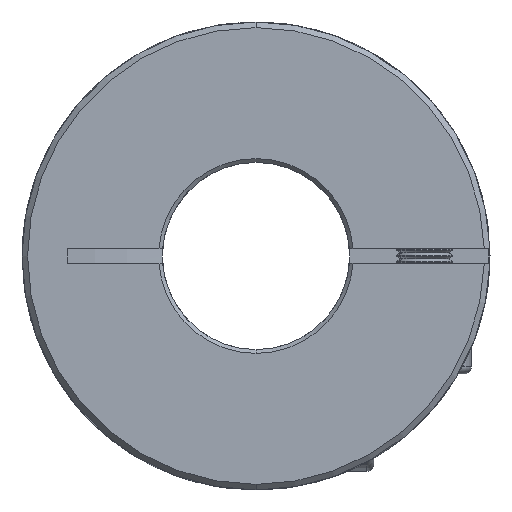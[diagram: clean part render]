
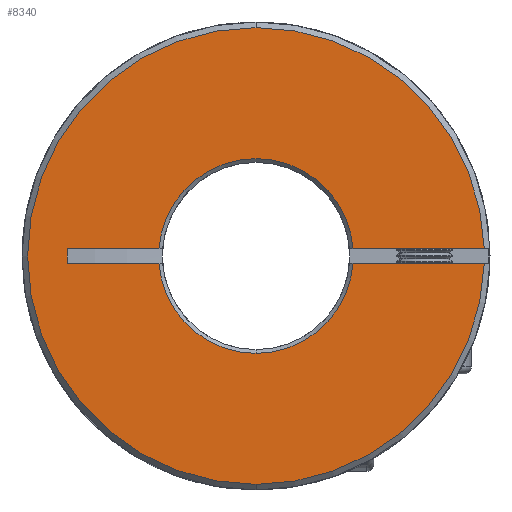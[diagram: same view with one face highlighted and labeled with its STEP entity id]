
A CAD part, front view. The second image highlights one B-rep face of the part: STEP entity #8340.
In plain terms, the highlighted planar face has unit normal (0, -1, 0).
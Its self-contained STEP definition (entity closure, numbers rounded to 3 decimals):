
#71 = AXIS2_PLACEMENT_3D ( 'NONE', #16097, #13433, #2530 ) ;
#72 = DIRECTION ( 'NONE',  ( 0., -1., 0. ) ) ;
#171 = ORIENTED_EDGE ( 'NONE', *, *, #17100, .F. ) ;
#174 = VERTEX_POINT ( 'NONE', #7508 ) ;
#211 = EDGE_CURVE ( 'NONE', #16513, #7217, #10555, .T. ) ;
#518 = CIRCLE ( 'NONE', #4623, 10.4 ) ;
#1236 = VECTOR ( 'NONE', #8196, 1000. ) ;
#1238 = AXIS2_PLACEMENT_3D ( 'NONE', #11356, #16881, #6082 ) ;
#1273 = VERTEX_POINT ( 'NONE', #14547 ) ;
#1560 = DIRECTION ( 'NONE',  ( 0., 1., 0. ) ) ;
#1638 = AXIS2_PLACEMENT_3D ( 'NONE', #12292, #1560, #3040 ) ;
#2005 = ORIENTED_EDGE ( 'NONE', *, *, #211, .T. ) ;
#2184 = CARTESIAN_POINT ( 'NONE',  ( -50., 0., -0.75 ) ) ;
#2198 = ORIENTED_EDGE ( 'NONE', *, *, #3200, .T. ) ;
#2317 = DIRECTION ( 'NONE',  ( 0., -1., 0. ) ) ;
#2530 = DIRECTION ( 'NONE',  ( 0., 0., 1. ) ) ;
#2763 = CARTESIAN_POINT ( 'NONE',  ( -50., 0., 0.75 ) ) ;
#3040 = DIRECTION ( 'NONE',  ( 0., 0., 1. ) ) ;
#3200 = EDGE_CURVE ( 'NONE', #11424, #6997, #4933, .T. ) ;
#3436 = ORIENTED_EDGE ( 'NONE', *, *, #10651, .T. ) ;
#3482 = EDGE_LOOP ( 'NONE', ( #16345, #8250, #3436, #171, #2005, #3846, #9239, #11508, #5549, #16302, #2198 ) ) ;
#3511 = PLANE ( 'NONE',  #1238 ) ;
#3793 = CARTESIAN_POINT ( 'NONE',  ( 0., 0., 0. ) ) ;
#3846 = ORIENTED_EDGE ( 'NONE', *, *, #14262, .T. ) ;
#3871 = DIRECTION ( 'NONE',  ( 0., 0., 1. ) ) ;
#4262 = CARTESIAN_POINT ( 'NONE',  ( 10.373, 0., -0.75 ) ) ;
#4623 = AXIS2_PLACEMENT_3D ( 'NONE', #16015, #16149, #14666 ) ;
#4782 = VECTOR ( 'NONE', #12043, 1000. ) ;
#4889 = DIRECTION ( 'NONE',  ( 0., 1., 0. ) ) ;
#4933 = CIRCLE ( 'NONE', #8723, 24.4 ) ;
#5128 = CARTESIAN_POINT ( 'NONE',  ( 24.388, 0., 0.75 ) ) ;
#5269 = CARTESIAN_POINT ( 'NONE',  ( -20.149, 0., 0.75 ) ) ;
#5379 = CARTESIAN_POINT ( 'NONE',  ( -50., 0., 0.75 ) ) ;
#5549 = ORIENTED_EDGE ( 'NONE', *, *, #6552, .T. ) ;
#5589 = VECTOR ( 'NONE', #7750, 1000. ) ;
#5804 = LINE ( 'NONE', #2184, #5589 ) ;
#5905 = LINE ( 'NONE', #2763, #16264 ) ;
#6082 = DIRECTION ( 'NONE',  ( 0., 0., 1. ) ) ;
#6477 = LINE ( 'NONE', #6734, #4782 ) ;
#6552 = EDGE_CURVE ( 'NONE', #10652, #1273, #13053, .T. ) ;
#6595 = VERTEX_POINT ( 'NONE', #14715 ) ;
#6734 = CARTESIAN_POINT ( 'NONE',  ( -50., 0., -0.75 ) ) ;
#6997 = VERTEX_POINT ( 'NONE', #9098 ) ;
#7042 = CARTESIAN_POINT ( 'NONE',  ( 10.373, 0., 0.75 ) ) ;
#7217 = VERTEX_POINT ( 'NONE', #5269 ) ;
#7508 = CARTESIAN_POINT ( 'NONE',  ( 0., 0., -10.4 ) ) ;
#7750 = DIRECTION ( 'NONE',  ( 1., 0., 0. ) ) ;
#8165 = DIRECTION ( 'NONE',  ( 1., 0., 0. ) ) ;
#8196 = DIRECTION ( 'NONE',  ( 1., 0., 0. ) ) ;
#8250 = ORIENTED_EDGE ( 'NONE', *, *, #11879, .T. ) ;
#8275 = CARTESIAN_POINT ( 'NONE',  ( 0., 0., 0. ) ) ;
#8340 = ADVANCED_FACE ( 'NONE', ( #12584 ), #3511, .F. ) ;
#8500 = EDGE_CURVE ( 'NONE', #1273, #11424, #10066, .T. ) ;
#8625 = EDGE_CURVE ( 'NONE', #15837, #6997, #6477, .T. ) ;
#8723 = AXIS2_PLACEMENT_3D ( 'NONE', #8275, #72, #10943 ) ;
#9098 = CARTESIAN_POINT ( 'NONE',  ( 24.388, 0., -0.75 ) ) ;
#9165 = AXIS2_PLACEMENT_3D ( 'NONE', #12975, #4889, #17102 ) ;
#9239 = ORIENTED_EDGE ( 'NONE', *, *, #17186, .T. ) ;
#9254 = CARTESIAN_POINT ( 'NONE',  ( -20.149, 0., -0.75 ) ) ;
#9782 = CIRCLE ( 'NONE', #9165, 10.4 ) ;
#9858 = CARTESIAN_POINT ( 'NONE',  ( 0., 0., -24.4 ) ) ;
#10066 = CIRCLE ( 'NONE', #10524, 24.4 ) ;
#10524 = AXIS2_PLACEMENT_3D ( 'NONE', #3793, #2317, #15870 ) ;
#10555 = LINE ( 'NONE', #9254, #15398 ) ;
#10613 = VERTEX_POINT ( 'NONE', #14436 ) ;
#10651 = EDGE_CURVE ( 'NONE', #174, #10613, #9782, .T. ) ;
#10652 = VERTEX_POINT ( 'NONE', #5128 ) ;
#10943 = DIRECTION ( 'NONE',  ( 0., 0., 1. ) ) ;
#10973 = LINE ( 'NONE', #5379, #1236 ) ;
#11356 = CARTESIAN_POINT ( 'NONE',  ( -50., 0., 32.858 ) ) ;
#11424 = VERTEX_POINT ( 'NONE', #9858 ) ;
#11508 = ORIENTED_EDGE ( 'NONE', *, *, #12887, .T. ) ;
#11879 = EDGE_CURVE ( 'NONE', #15837, #174, #12505, .T. ) ;
#12043 = DIRECTION ( 'NONE',  ( 1., 0., 0. ) ) ;
#12292 = CARTESIAN_POINT ( 'NONE',  ( 0., 0., 0. ) ) ;
#12505 = CIRCLE ( 'NONE', #1638, 10.4 ) ;
#12584 = FACE_OUTER_BOUND ( 'NONE', #3482, .T. ) ;
#12887 = EDGE_CURVE ( 'NONE', #15828, #10652, #5905, .T. ) ;
#12975 = CARTESIAN_POINT ( 'NONE',  ( 0., 0., 0. ) ) ;
#13053 = CIRCLE ( 'NONE', #71, 24.4 ) ;
#13433 = DIRECTION ( 'NONE',  ( 0., -1., 0. ) ) ;
#14262 = EDGE_CURVE ( 'NONE', #7217, #6595, #10973, .T. ) ;
#14436 = CARTESIAN_POINT ( 'NONE',  ( -10.373, 0., -0.75 ) ) ;
#14547 = CARTESIAN_POINT ( 'NONE',  ( 0., 0., 24.4 ) ) ;
#14666 = DIRECTION ( 'NONE',  ( 0., 0., 1. ) ) ;
#14715 = CARTESIAN_POINT ( 'NONE',  ( -10.373, 0., 0.75 ) ) ;
#15398 = VECTOR ( 'NONE', #3871, 1000. ) ;
#15828 = VERTEX_POINT ( 'NONE', #7042 ) ;
#15837 = VERTEX_POINT ( 'NONE', #4262 ) ;
#15870 = DIRECTION ( 'NONE',  ( 0., 0., 1. ) ) ;
#16015 = CARTESIAN_POINT ( 'NONE',  ( 0., 0., 0. ) ) ;
#16097 = CARTESIAN_POINT ( 'NONE',  ( 0., 0., 0. ) ) ;
#16149 = DIRECTION ( 'NONE',  ( 0., 1., 0. ) ) ;
#16264 = VECTOR ( 'NONE', #8165, 1000. ) ;
#16302 = ORIENTED_EDGE ( 'NONE', *, *, #8500, .T. ) ;
#16345 = ORIENTED_EDGE ( 'NONE', *, *, #8625, .F. ) ;
#16513 = VERTEX_POINT ( 'NONE', #17116 ) ;
#16881 = DIRECTION ( 'NONE',  ( 0., 1., 0. ) ) ;
#17100 = EDGE_CURVE ( 'NONE', #16513, #10613, #5804, .T. ) ;
#17102 = DIRECTION ( 'NONE',  ( 0., 0., 1. ) ) ;
#17116 = CARTESIAN_POINT ( 'NONE',  ( -20.149, 0., -0.75 ) ) ;
#17186 = EDGE_CURVE ( 'NONE', #6595, #15828, #518, .T. ) ;
